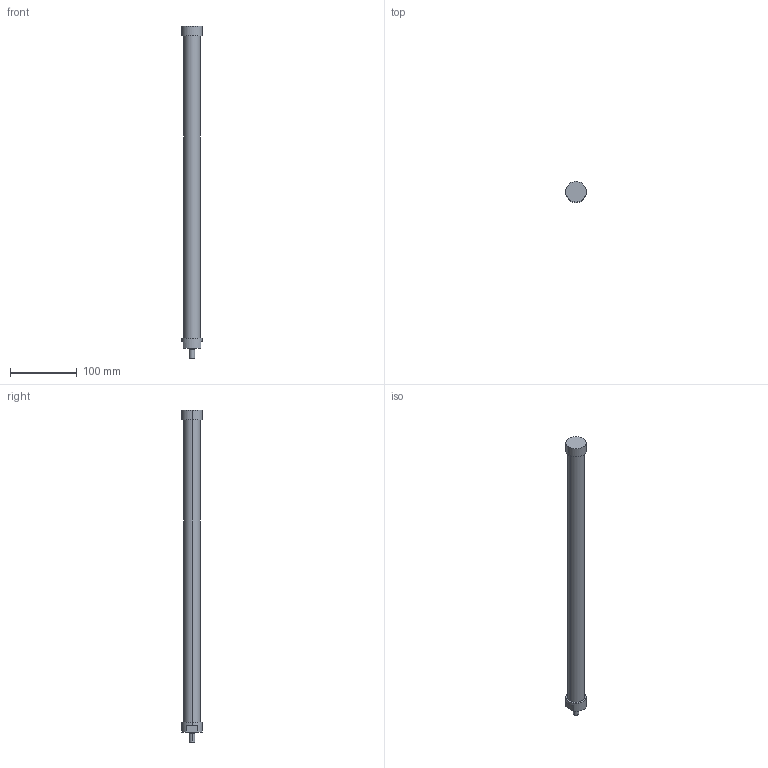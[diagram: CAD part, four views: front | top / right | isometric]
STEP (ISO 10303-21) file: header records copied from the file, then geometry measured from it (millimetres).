
FILE_DESCRIPTION(('STEP AP214'),'1');
FILE_NAME('ETT-R050M494.stp','2015-02-02T15:17:03',(' '),(' '),'Spatial InterOp 3D',' ',' ');
FILE_SCHEMA(('automotive_design'));
Length unit declared in the file: metre
Products named in the file (2): 1; 2
Bounding box: 31 x 31 x 499 mm (x, y, z)
Volume: 245681.3 mm3; surface area: 41250.2 mm2
Topology: 1 solids, 4 shells, 20 faces, 48 edges, 36 vertices
Faces by surface type: cylinder 10, plane 10
Entity records: 812 total; most frequent: DIRECTION 120, CARTESIAN_POINT 106, ORIENTED_EDGE 84, AXIS2_PLACEMENT_3D 50, EDGE_CURVE 48, VERTEX_POINT 36, CIRCLE 28, EDGE_LOOP 24
